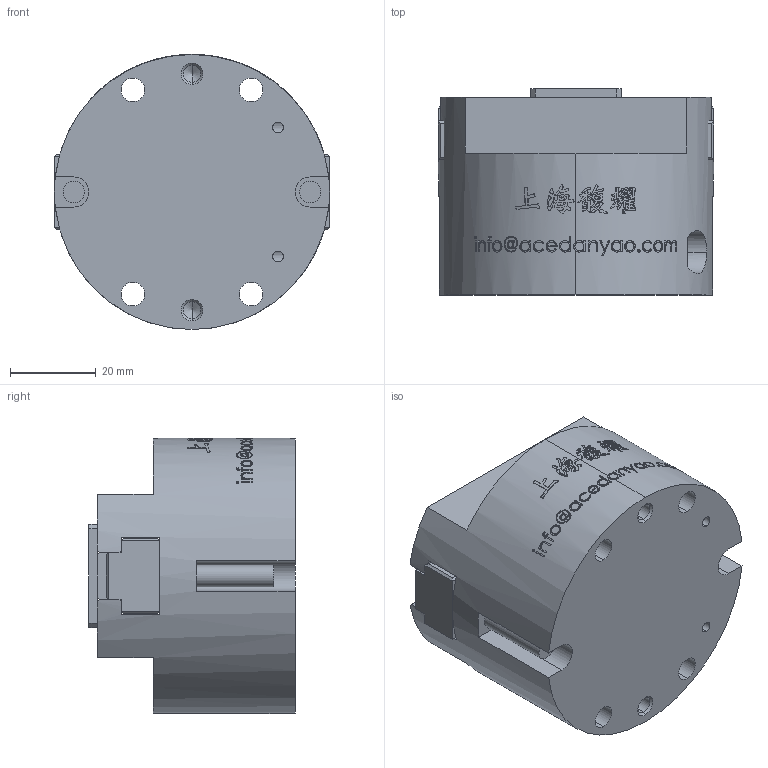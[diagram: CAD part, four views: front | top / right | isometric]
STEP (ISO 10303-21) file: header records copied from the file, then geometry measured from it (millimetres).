
FILE_DESCRIPTION (( 'STEP AP203' ), '1' );
FILE_NAME ('OPM-064-C1-原始檔-組合-W106.04.18.STEP', '2017-04-18T05:28:27', ( 'DanyaoCAD' ), ( '' ), 'SwSTEP 2.0', 'SolidWorks 2016', '' );
FILE_SCHEMA (( 'CONFIG_CONTROL_DESIGN' ));
Length unit declared in the file: millimetre
Products named in the file (3): Griffa; Corpo; OPM-064-C1-原始檔-組合-W106.04.18
Assembly tree (3 placements, depth 2):
  OPM-064-C1-原始檔-組合-W106.04.18
    Griffa  x2
    Corpo
Bounding box: 64 x 48 x 64 mm (x, y, z)
Volume: 128033.7 mm3; surface area: 27187.1 mm2
Topology: 3 solids, 3 shells, 959 faces, 2666 edges, 1758 vertices
Faces by surface type: bspline 665, plane 185, cylinder 89, cone 20
Entity records: 86130 total; most frequent: CARTESIAN_POINT 68217, ORIENTED_EDGE 5092, EDGE_CURVE 2546, B_SPLINE_CURVE_WITH_KNOTS 2035, VERTEX_POINT 1690, DIRECTION 1172, EDGE_LOOP 982, FACE_OUTER_BOUND 914
